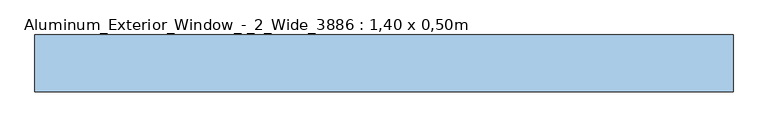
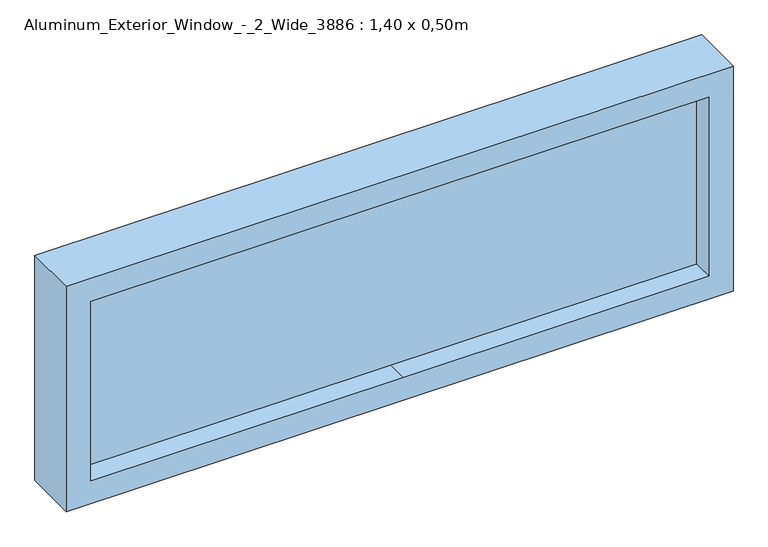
"""IFC4 building model written with IfcOpenShell, lengths in millimetres: window geometry, Aluminum_Exterior_Window_-_2_Wide_3886 : 1,40 x 0,50m."""

from ifc_helpers import new_model, si_unit, frame, origin, place, context, project, spatial, polyline, outline, extrude, source, transform, mapped, element, save


def aluminum_exterior_window_2_wide_3886_1_40_x_0_50m_8d64cb47(model_context):
    return source(origin(), model_context, "Body", "SweptSolid", [
        extrude(outline(polyline([(1560.0, -1371.6), (1060.0, -1371.6), (1060.0, 28.4), (1560.0, 28.4), (1560.0, -1371.6)]), holes=[polyline([(1509.2, -697.0), (1509.2, -22.4), (1110.8, -22.4), (1110.8, -663.8808837), (1110.8, -1320.8), (1509.2, -1320.8), (1509.2, -697.0)])]), frame((0.0, -38.1424754, 0.0), z_axis=(0.0, 1.0, 0.0), x_axis=(0.0, 0.0, 1.0)), (0.0, 0.0, 1.0), 114.3),
        extrude(outline(polyline([(1509.2, -697.0), (1509.2, -1320.8), (1110.8, -1320.8), (1110.8, -670.891469), (1110.8, -22.4), (1509.2, -22.4), (1509.2, -697.0)])), frame((0.0, 6.3075246, 0.0), z_axis=(0.0, 1.0, 0.0), x_axis=(0.0, 0.0, 1.0)), (0.0, 0.0, 1.0), 25.4),
    ])


if __name__ == "__main__":
    model = new_model("IFC4")
    model_context = context("Model", 3, world=origin())
    ifc_project = project(units=[si_unit("LENGTHUNIT", "METRE", prefix="MILLI")], contexts=[model_context])
    site = spatial("IfcSite", under=ifc_project)
    building = spatial("IfcBuilding", under=site)
    placement = place(None, origin())
    aluminum_exterior_window_2_wide_3886_1_40_x_0_50m_shape = aluminum_exterior_window_2_wide_3886_1_40_x_0_50m_8d64cb47(model_context)
    element("IfcWindow", 1, ObjectType="Aluminum_Exterior_Window_-_2_Wide_3886 : 1,40 x 0,50m", at=placement, inside=building, context=model_context, shape_type="MappedRepresentation", body=[
        mapped(aluminum_exterior_window_2_wide_3886_1_40_x_0_50m_shape, transform((0.0, 0.0, 0.0), x_axis=(1.0, 0.0, 0.0), y_axis=(0.0, 1.0, 0.0), z_axis=(0.0, 0.0, 1.0))),
    ])
    save(model, "model.ifc")
